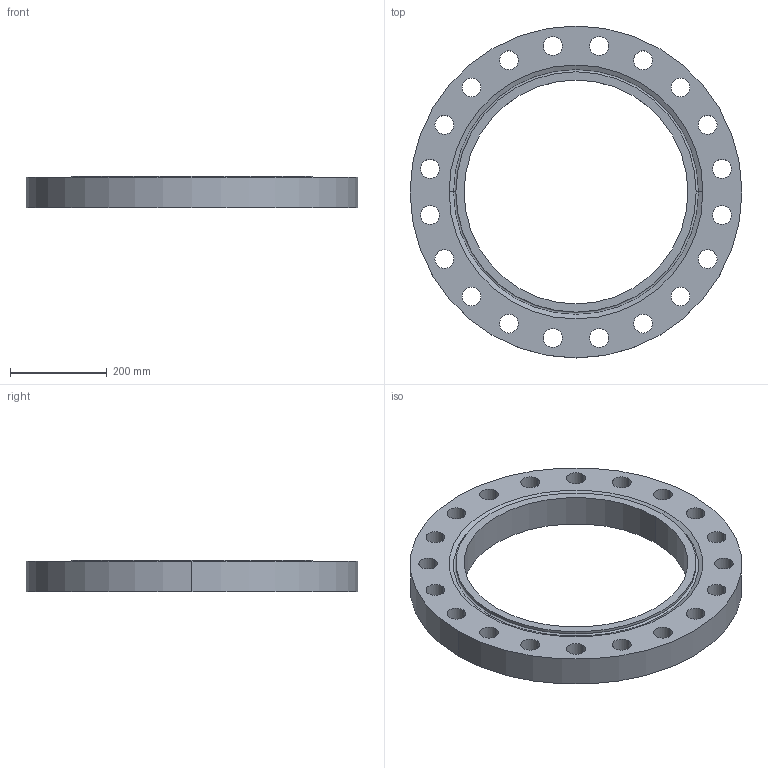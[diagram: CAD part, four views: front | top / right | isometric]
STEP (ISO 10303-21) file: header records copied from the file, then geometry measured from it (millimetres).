
FILE_DESCRIPTION (( 'STEP AP214' ), '1' );
FILE_NAME ('PN40 DN450 Type 01 - Type H Face.STEP', '2018-12-29T02:50:34', ( '' ), ( '' ), 'SwSTEP 2.0', 'SolidWorks 2019', '' );
FILE_SCHEMA (( 'AUTOMOTIVE_DESIGN' ));
Length unit declared in the file: millimetre
Products named in the file (1): PN40 DN450 Type 01 - Type H Face
Bounding box: 685 x 685 x 66 mm (x, y, z)
Volume: 11158874.9 mm3; surface area: 751976.9 mm2
Topology: 1 solids, 1 shells, 53 faces, 146 edges, 96 vertices
Faces by surface type: cylinder 46, plane 3, torus 2, cone 2
Entity records: 1864 total; most frequent: DIRECTION 352, CARTESIAN_POINT 296, ORIENTED_EDGE 292, AXIS2_PLACEMENT_3D 152, EDGE_CURVE 146, CIRCLE 98, VERTEX_POINT 96, EDGE_LOOP 96
